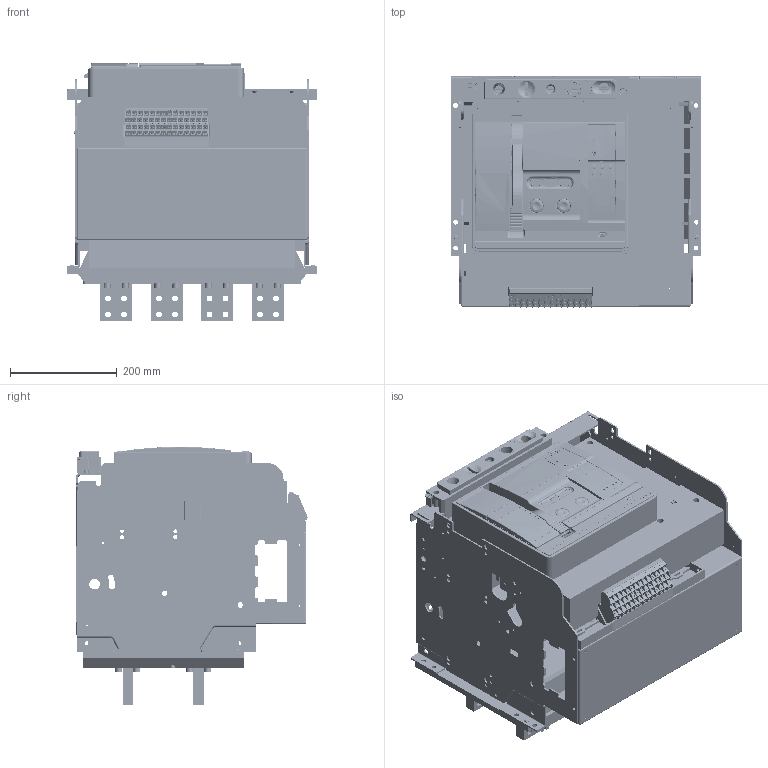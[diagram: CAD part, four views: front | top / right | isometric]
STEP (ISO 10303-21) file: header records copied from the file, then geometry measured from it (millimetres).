
FILE_DESCRIPTION(/* description */ (''),/* implementation_level */ '2;1');
FILE_NAME(/* name */ 'C:/Users/carlos.gonzalez/Documents/ADRIAN_TEMP_DRAWING/Ex9A25_4P_2000_DO_PB_Drawing.step',/* time_stamp */ '2021-10-14T12:39:36+02:00',/* author */ (''),/* organization */ (''),/* preprocessor_version */ 'ST-DEVELOPER v18.1',/* originating_system */ 'Autodesk Translation Framework v10.10.0.1391',/* authorisation */ '');
FILE_SCHEMA (('AUTOMOTIVE_DESIGN { 1 0 10303 214 3 1 1 }'));
Products named in the file (59): Ex9A25_4P_2000_DO; Auxiliary terminals; 5ZTD-558-695-2500_ASM; 5ZTD-558-712_ASM; 5ZTD-558-712_ASM_1; 5ZTD-558-712_ASM_2; 5ZTD-558-712_ASM_3; 5ZTD-558-712_ASM_4; 5ZTD-558-712_ASM_5; 5ZTD-558-712_ASM_6; 5ZTD-558-712_ASM_7; 5ZTD-558-712_ASM_8; 5ZTD-558-712_ASM_9; 5ZTD-558-712_ASM_10; 5ZTD-558-712_ASM_11; 5ZTD-558-712_ASM_12; 5ZTD-558-712_ASM_13; 8ZTD-024-837; 8ZTD-557-514; 8ZTD-557-515; 8ZTD-557-516; 8ZTD-557-517; M3_GB6170; M3X8_GB818; 8ZTD-141-185; 8ZTD-141-184; 8ZTD-860-699; 8ZTD-064-137; Main terminals; 8580A0412105; GBT70_1-M8X20; GBT93-8; Internal components; 8050A0306130-201804; 25-4P-DIBAN02; 8ZTD_050_654; 8ZTD_300_533; 8ZTD_050_653; 8300A0101107-20170317; 8300A0101134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
Assembly tree (329 placements, depth 5):
  Ex9A25_4P_2000_DO
    Auxiliary terminals
      5ZTD-558-695-2500_ASM
        5ZTD-558-712_ASM
          8ZTD-024-837
          8ZTD-557-514
          8ZTD-557-515
          8ZTD-557-516
          8ZTD-557-517
          M3_GB6170  x4
          M3X8_GB818  x4
          8ZTD-141-185
          8ZTD-141-184
        5ZTD-558-712_ASM_1
          8ZTD-024-837
          8ZTD-557-514
          8ZTD-557-515
          8ZTD-557-516
          8ZTD-557-517
          M3_GB6170  x4
          M3X8_GB818  x4
          8ZTD-141-185
          8ZTD-141-184
        5ZTD-558-712_ASM_2
          8ZTD-024-837
          8ZTD-557-514
          8ZTD-557-515
          8ZTD-557-516
          8ZTD-557-517
          M3_GB6170  x4
          M3X8_GB818  x4
          8ZTD-141-185
          8ZTD-141-184
        5ZTD-558-712_ASM_3
          8ZTD-024-837
          8ZTD-557-514
          8ZTD-557-515
          8ZTD-557-516
          8ZTD-557-517
          M3_GB6170  x4
          M3X8_GB818  x4
          8ZTD-141-185
          8ZTD-141-184
        5ZTD-558-712_ASM_4
          8ZTD-024-837
          8ZTD-557-514
          8ZTD-557-515
          8ZTD-557-516
          8ZTD-557-517
          M3_GB6170  x4
          M3X8_GB818  x4
          8ZTD-141-185
          8ZTD-141-184
        5ZTD-558-712_ASM_5
          8ZTD-024-837
          8ZTD-557-514
          8ZTD-557-515
          8ZTD-557-516
          8ZTD-557-517
          M3_GB6170  x4
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Bounding box: 470.5 x 433.53 x 484.49 mm (x, y, z)
Volume: 16011155.5 mm3; surface area: 3725003.2 mm2
Topology: 308 solids, 371 shells, 23225 faces, 60417 edges, 39229 vertices
Faces by surface type: plane 17788, cylinder 3000, cone 1138, bspline 784, torus 386, sphere 129
Full cylindrical faces by diameter (mm): 2 x539, 2.1 x2, 2.246 x56, 2.5 x3, 2.6 x2, 3 x81, 3.2 x10, 3.4 x3, 3.5 x57, 4 x97, 4.3 x1, 4.5 x4, 5 x27, 5.008 x1, 5.5 x5, 6 x20, 6.1 x1, 6.5 x9, 6.647 x32, 7 x25, 8 x39, 8.3 x2, 8.5 x32, 9 x13, 10 x2, 10.5 x1, 11 x33, 11.5 x1, 12 x7, 12.5 x3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
Entity records: 257083 total; most frequent: CARTESIAN_POINT 91614, ORIENTED_EDGE 34492, DIRECTION 32855, EDGE_CURVE 17293, LINE 12741, VECTOR 12741, VERTEX_POINT 11265, AXIS2_PLACEMENT_3D 10057
